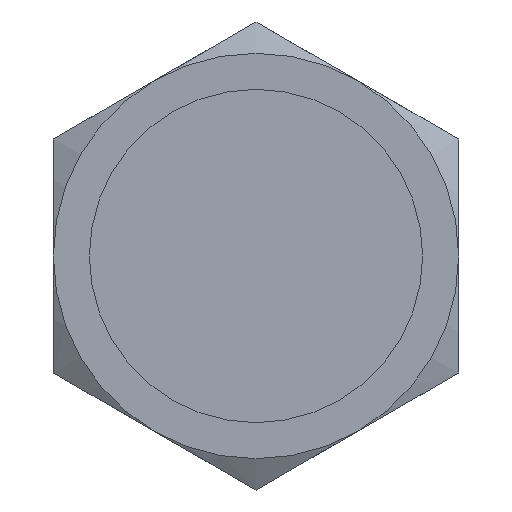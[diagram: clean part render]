
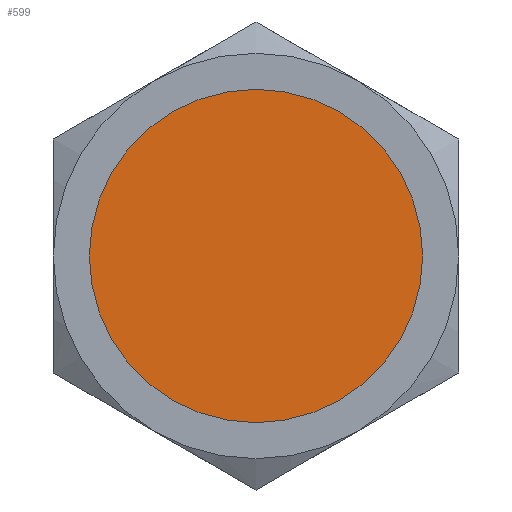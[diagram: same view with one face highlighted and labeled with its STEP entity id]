
A CAD part, left-side view. The second image highlights one B-rep face of the part: STEP entity #599.
In plain terms, the highlighted planar face has unit normal (-1, 0, 0).
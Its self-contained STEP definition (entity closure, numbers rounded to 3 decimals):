
#110=PLANE($,#650);
#140=FACE_OUTER_BOUND($,#184,.T.);
#184=EDGE_LOOP($,(#415));
#237=CIRCLE($,#649,6.579);
#268=VERTEX_POINT($,#896);
#323=EDGE_CURVE($,#268,#268,#237,.T.);
#415=ORIENTED_EDGE($,*,*,#323,.T.);
#599=ADVANCED_FACE($,(#140),#110,.T.);
#649=AXIS2_PLACEMENT_3D($,#897,#730,#731);
#650=AXIS2_PLACEMENT_3D($,#898,#732,#733);
#730=DIRECTION('center_axis',(-1.,0.,0.));
#731=DIRECTION('ref_axis',(0.,-1.,0.));
#732=DIRECTION('center_axis',(-1.,0.,0.));
#733=DIRECTION('ref_axis',(0.,-1.,0.));
#896=CARTESIAN_POINT('',(-3.,-6.579,0.));
#897=CARTESIAN_POINT('Origin',(-3.,0.,0.));
#898=CARTESIAN_POINT('Origin',(-3.,0.,0.));
